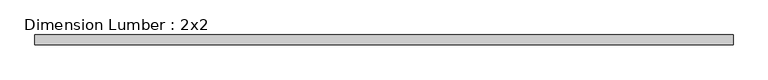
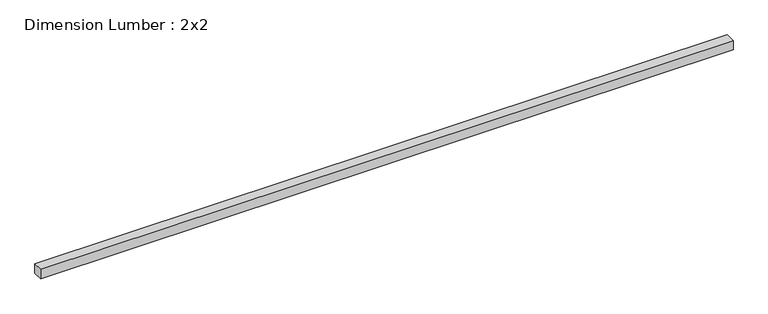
"""IFC4 building model written with IfcOpenShell, lengths in millimetres: beam geometry, Dimension Lumber : 2x2."""

from ifc_helpers import new_model, si_unit, frame, origin, place, context, project, spatial, polyline, outline, extrude, source, transform, mapped, element, save


def dimension_lumber_2x2_2317ed5d(model_context):
    return source(origin(), model_context, "Body", "SweptSolid", [
        extrude(outline(polyline([(1333.5, 19.05), (1333.5, -19.05), (-1333.5, -19.05), (-1333.5, 19.05), (1333.5, 19.05)])), frame((0.0, 0.0, -19.05), z_axis=(0.0, 0.0, 1.0), x_axis=(1.0, 0.0, 0.0)), (0.0, 0.0, 1.0), 38.1),
    ])


if __name__ == "__main__":
    model = new_model("IFC4")
    model_context = context("Model", 3, world=origin())
    ifc_project = project(units=[si_unit("LENGTHUNIT", "METRE", prefix="MILLI")], contexts=[model_context])
    site = spatial("IfcSite", under=ifc_project)
    building = spatial("IfcBuilding", under=site)
    placement = place(None, origin())
    dimension_lumber_2x2_shape = dimension_lumber_2x2_2317ed5d(model_context)
    element("IfcBeam", 1, ObjectType="Dimension Lumber : 2x2", at=placement, inside=building, context=model_context, shape_type="MappedRepresentation", body=[
        mapped(dimension_lumber_2x2_shape, transform((0.0, 0.0, 0.0), x_axis=(1.0, 0.0, 0.0), y_axis=(0.0, 1.0, 0.0), z_axis=(0.0, 0.0, 1.0))),
    ])
    save(model, "model.ifc")
